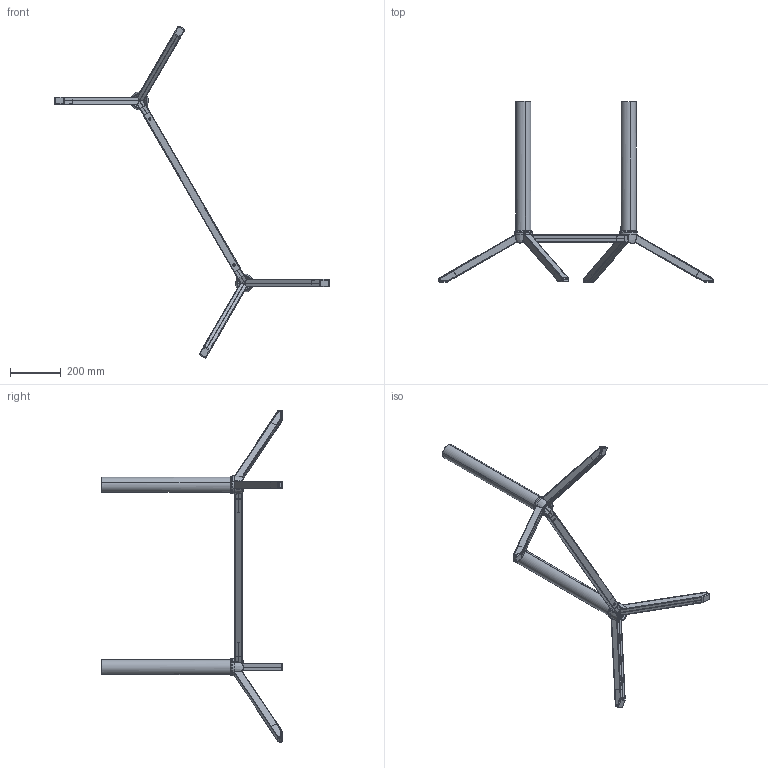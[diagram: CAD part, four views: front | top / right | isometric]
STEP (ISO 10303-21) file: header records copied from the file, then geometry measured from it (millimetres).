
FILE_DESCRIPTION (( 'STEP AP203' ), '1' );
FILE_NAME ('Katlanýr Dikdörtgen.STEP', '2020-12-18T14:37:03', ( 'PC' ), ( '' ), 'SwSTEP 2.0', 'SolidWorks 2015', '' );
FILE_SCHEMA (( 'CONFIG_CONTROL_DESIGN' ));
Length unit declared in the file: millimetre
Products named in the file (10): 25x25xParca; 60 Boru_Katlanýýr; Acili Ara; 3 AYAK; AynalamaAcili Ara; Aynalama60 Boru_Katlanýýr; Katlanýr Dikdörtgen; 3 Ayak Cap 60 Göbek; 30x30Travers; ayak d鼁 t
Assembly tree (17 placements, depth 2):
  Katlanýr Dikdörtgen
    3 AYAK  x4
    ayak d鼁 t  x4
    Acili Ara
    25x25xParca  x2
    60 Boru_Katlanýýr
    3 Ayak Cap 60 Göbek  x2
    30x30Travers
    Aynalama60 Boru_Katlanýýr
    AynalamaAcili Ara
Bounding box: 1081.81 x 712.2 x 1308.9 mm (x, y, z)
Volume: 768774.6 mm3; surface area: 990395.3 mm2
Topology: 17 solids, 17 shells, 1009 faces, 2417 edges, 1418 vertices
Faces by surface type: plane 456, cylinder 300, bspline 207, torus 20, cone 18, sphere 8
Entity records: 32306 total; most frequent: CARTESIAN_POINT 19824, ORIENTED_EDGE 2562, DIRECTION 1995, EDGE_CURVE 1281, VERTEX_POINT 747, VECTOR 709, LINE 709, AXIS2_PLACEMENT_3D 643
